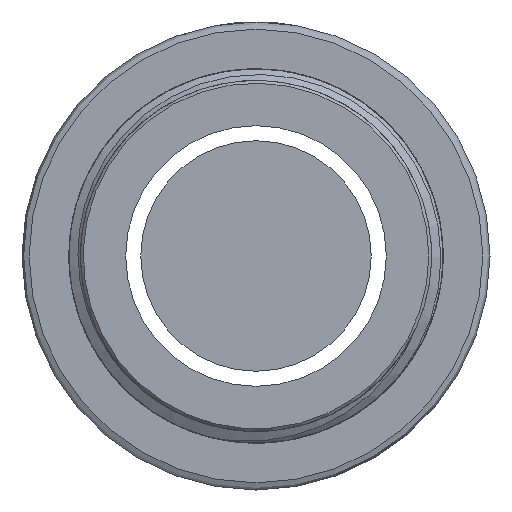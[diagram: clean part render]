
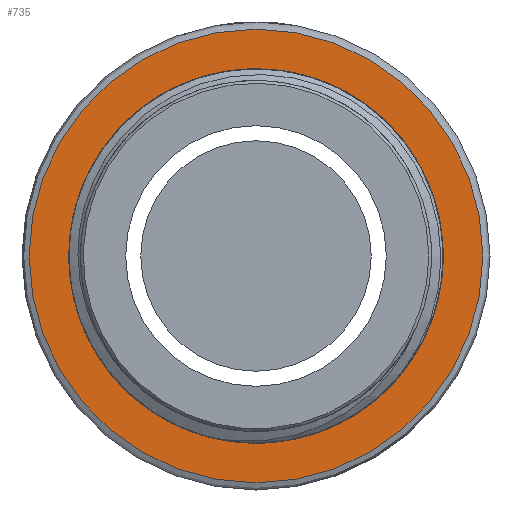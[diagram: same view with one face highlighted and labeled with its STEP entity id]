
A CAD part, left-side view. The second image highlights one B-rep face of the part: STEP entity #735.
In plain terms, the highlighted planar face has unit normal (-1, 0, 0).
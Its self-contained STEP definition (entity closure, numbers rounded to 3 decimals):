
#101 = PLANE ( 'NONE',  #1075 ) ;
#165 = VERTEX_POINT ( 'NONE', #1102 ) ;
#194 = VERTEX_POINT ( 'NONE', #793 ) ;
#282 = DIRECTION ( 'NONE',  ( -1., 0., 0. ) ) ;
#283 = EDGE_CURVE ( 'NONE', #194, #194, #609, .T. ) ;
#401 = DIRECTION ( 'NONE',  ( 1., 0., 0. ) ) ;
#413 = CIRCLE ( 'NONE', #473, 11.8 ) ;
#473 = AXIS2_PLACEMENT_3D ( 'NONE', #1328, #401, #1757 ) ;
#549 = FACE_BOUND ( 'NONE', #1412, .T. ) ;
#573 = CARTESIAN_POINT ( 'NONE',  ( -30., 0., 0. ) ) ;
#609 = CIRCLE ( 'NONE', #1730, 15.75 ) ;
#649 = EDGE_CURVE ( 'NONE', #165, #165, #413, .T. ) ;
#698 = DIRECTION ( 'NONE',  ( 0., -1., 0. ) ) ;
#707 = DIRECTION ( 'NONE',  ( -1., 0., 0. ) ) ;
#735 = ADVANCED_FACE ( 'NONE', ( #1017, #549 ), #101, .T. ) ;
#793 = CARTESIAN_POINT ( 'NONE',  ( -30., -15.75, 0. ) ) ;
#1017 = FACE_OUTER_BOUND ( 'NONE', #1894, .T. ) ;
#1075 = AXIS2_PLACEMENT_3D ( 'NONE', #1628, #707, #698 ) ;
#1102 = CARTESIAN_POINT ( 'NONE',  ( -30., 11.8, 0. ) ) ;
#1286 = ORIENTED_EDGE ( 'NONE', *, *, #283, .T. ) ;
#1328 = CARTESIAN_POINT ( 'NONE',  ( -30., 0., 0. ) ) ;
#1412 = EDGE_LOOP ( 'NONE', ( #1584 ) ) ;
#1488 = DIRECTION ( 'NONE',  ( 0., -1., 0. ) ) ;
#1584 = ORIENTED_EDGE ( 'NONE', *, *, #649, .T. ) ;
#1628 = CARTESIAN_POINT ( 'NONE',  ( -30., 11.8, 0. ) ) ;
#1730 = AXIS2_PLACEMENT_3D ( 'NONE', #573, #282, #1488 ) ;
#1757 = DIRECTION ( 'NONE',  ( 0., 1., 0. ) ) ;
#1894 = EDGE_LOOP ( 'NONE', ( #1286 ) ) ;
